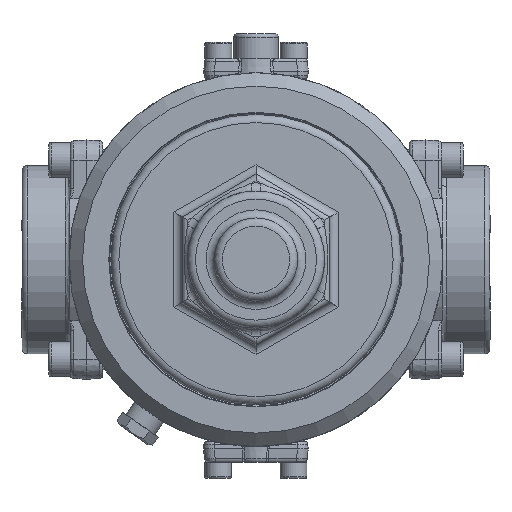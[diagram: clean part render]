
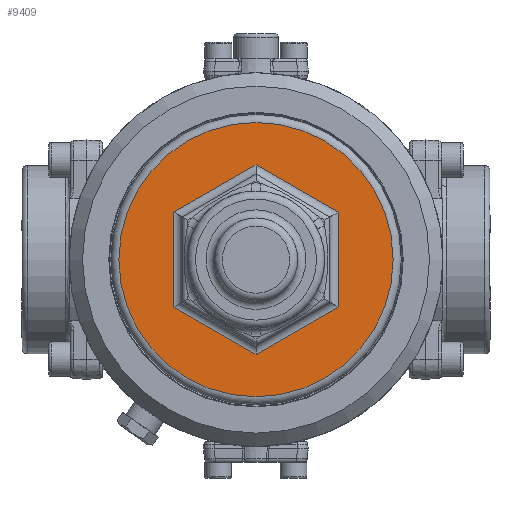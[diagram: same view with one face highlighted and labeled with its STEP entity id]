
A CAD part, front view. The second image highlights one B-rep face of the part: STEP entity #9409.
In plain terms, the highlighted planar face has unit normal (0, -1, 0).
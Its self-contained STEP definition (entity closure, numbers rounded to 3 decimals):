
#891=FACE_BOUND('',#2044,.T.);
#1105=PLANE('',#10484);
#1443=FACE_OUTER_BOUND('',#2043,.T.);
#2043=EDGE_LOOP('',(#7592));
#2044=EDGE_LOOP('',(#7593,#7594,#7595,#7596,#7597,#7598));
#2647=CIRCLE('',#10485,51.);
#3206=LINE('',#17608,#3689);
#3208=LINE('',#17616,#3691);
#3209=LINE('',#17619,#3692);
#3211=LINE('',#17625,#3694);
#3213=LINE('',#17630,#3696);
#3214=LINE('',#17632,#3697);
#3689=VECTOR('',#12448,10.);
#3691=VECTOR('',#12456,10.);
#3692=VECTOR('',#12461,10.);
#3694=VECTOR('',#12467,10.);
#3696=VECTOR('',#12473,10.);
#3697=VECTOR('',#12476,10.);
#4382=VERTEX_POINT('',#17605);
#4383=VERTEX_POINT('',#17607);
#4385=VERTEX_POINT('',#17613);
#4386=VERTEX_POINT('',#17615);
#4388=VERTEX_POINT('',#17623);
#4389=VERTEX_POINT('',#17628);
#4390=VERTEX_POINT('',#17639);
#5497=EDGE_CURVE('',#4382,#4383,#3206,.T.);
#5501=EDGE_CURVE('',#4385,#4386,#3208,.T.);
#5503=EDGE_CURVE('',#4386,#4382,#3209,.T.);
#5506=EDGE_CURVE('',#4388,#4385,#3211,.T.);
#5509=EDGE_CURVE('',#4389,#4388,#3213,.T.);
#5510=EDGE_CURVE('',#4383,#4389,#3214,.T.);
#5513=EDGE_CURVE('',#4390,#4390,#2647,.T.);
#7592=ORIENTED_EDGE('',*,*,#5513,.F.);
#7593=ORIENTED_EDGE('',*,*,#5501,.F.);
#7594=ORIENTED_EDGE('',*,*,#5506,.F.);
#7595=ORIENTED_EDGE('',*,*,#5509,.F.);
#7596=ORIENTED_EDGE('',*,*,#5510,.F.);
#7597=ORIENTED_EDGE('',*,*,#5497,.F.);
#7598=ORIENTED_EDGE('',*,*,#5503,.F.);
#9409=ADVANCED_FACE('',(#1443,#891),#1105,.T.);
#10484=AXIS2_PLACEMENT_3D('',#17638,#12485,#12486);
#10485=AXIS2_PLACEMENT_3D('',#17640,#12487,#12488);
#12448=DIRECTION('',(0.866,0.,0.5));
#12456=DIRECTION('',(0.,0.,-1.));
#12461=DIRECTION('',(0.866,0.,-0.5));
#12467=DIRECTION('',(-0.866,0.,-0.5));
#12473=DIRECTION('',(-0.866,0.,0.5));
#12476=DIRECTION('',(0.,0.,1.));
#12485=DIRECTION('center_axis',(0.,-1.,0.));
#12486=DIRECTION('ref_axis',(0.,0.,
-1.));
#12487=DIRECTION('center_axis',(0.,1.,0.));
#12488=DIRECTION('ref_axis',(1.,0.,0.));
#17605=CARTESIAN_POINT('',(0.,-45.,-35.218));
#17607=CARTESIAN_POINT('',(30.5,-45.,-17.609));
#17608=CARTESIAN_POINT('',(-6.531,-45.,-38.989));
#17613=CARTESIAN_POINT('',(-30.5,-45.,17.609));
#17615=CARTESIAN_POINT('',(-30.5,-45.,-17.609));
#17616=CARTESIAN_POINT('',(-30.5,-45.,7.939));
#17619=CARTESIAN_POINT('',(-37.031,-45.,-13.838));
#17623=CARTESIAN_POINT('',(0.,-45.,35.218));
#17625=CARTESIAN_POINT('',(-23.281,-45.,21.777));
#17628=CARTESIAN_POINT('',(30.5,-45.,17.609));
#17630=CARTESIAN_POINT('',(7.219,-45.,31.051));
#17632=CARTESIAN_POINT('',(30.5,-45.,-7.939));
#17638=CARTESIAN_POINT('Origin',(-39.75,-45.,0.));
#17639=CARTESIAN_POINT('',(0.,-45.,51.));
#17640=CARTESIAN_POINT('Origin',(0.,-45.,0.));
